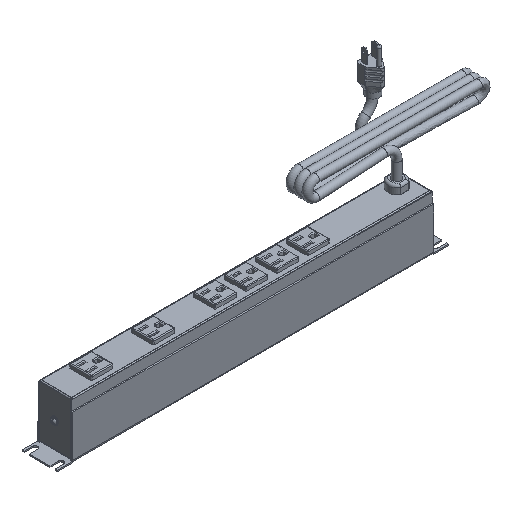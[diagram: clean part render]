
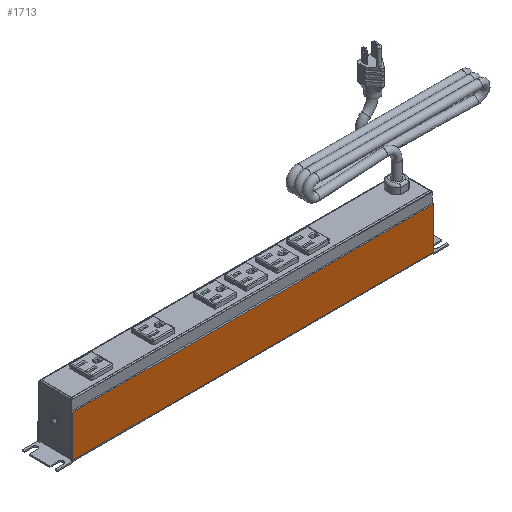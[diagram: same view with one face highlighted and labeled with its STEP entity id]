
A CAD part, isometric view. The second image highlights one B-rep face of the part: STEP entity #1713.
In plain terms, the highlighted planar face has unit normal (0, -1, 0).
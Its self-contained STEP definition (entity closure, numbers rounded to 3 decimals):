
#1504=CARTESIAN_POINT('',(-222.25,-21.819,2.588));
#1505=VERTEX_POINT('',#1504);
#1506=CARTESIAN_POINT('',(222.25,-21.819,2.588));
#1507=VERTEX_POINT('',#1506);
#1508=CARTESIAN_POINT('',(-222.25,-21.819,2.588));
#1509=DIRECTION('',(1.0,0.0,0.0));
#1510=VECTOR('',#1509,444.5);
#1511=LINE('',#1508,#1510);
#1512=EDGE_CURVE('',#1505,#1507,#1511,.T.);
#1562=CARTESIAN_POINT('',(222.25,-21.819,53.975));
#1563=VERTEX_POINT('',#1562);
#1570=CARTESIAN_POINT('',(222.25,-21.819,53.975));
#1571=DIRECTION('',(0.0,0.0,-1.0));
#1572=VECTOR('',#1571,51.387);
#1573=LINE('',#1570,#1572);
#1574=EDGE_CURVE('',#1563,#1507,#1573,.T.);
#1667=CARTESIAN_POINT('',(-222.25,-21.819,53.975));
#1668=VERTEX_POINT('',#1667);
#1669=CARTESIAN_POINT('',(-222.25,-21.819,2.588));
#1670=DIRECTION('',(0.0,0.0,1.0));
#1671=VECTOR('',#1670,51.388);
#1672=LINE('',#1669,#1671);
#1673=EDGE_CURVE('',#1505,#1668,#1672,.T.);
#1690=CARTESIAN_POINT('',(-222.25,-21.819,53.975));
#1691=DIRECTION('',(1.0,0.0,0.0));
#1692=VECTOR('',#1691,444.5);
#1693=LINE('',#1690,#1692);
#1694=EDGE_CURVE('',#1668,#1563,#1693,.T.);
#1702=CARTESIAN_POINT('',(0.,-21.819,26.947));
#1703=DIRECTION('',(0.0,1.0,0.0));
#1704=DIRECTION('',(1.0,0.0,0.0));
#1705=AXIS2_PLACEMENT_3D('',#1702,#1703,#1704);
#1706=PLANE('',#1705);
#1707=ORIENTED_EDGE('',*,*,#1512,.T.);
#1708=ORIENTED_EDGE('',*,*,#1574,.F.);
#1709=ORIENTED_EDGE('',*,*,#1694,.F.);
#1710=ORIENTED_EDGE('',*,*,#1673,.F.);
#1711=EDGE_LOOP('',(#1707,#1708,#1709,#1710));
#1712=FACE_OUTER_BOUND('',#1711,.T.);
#1713=ADVANCED_FACE('',(#1712),#1706,.F.);
